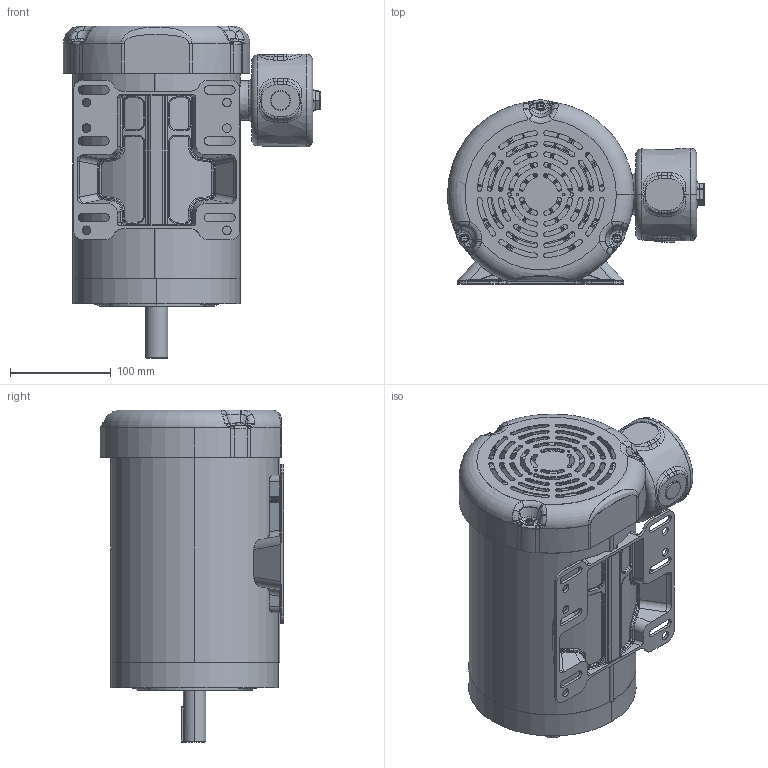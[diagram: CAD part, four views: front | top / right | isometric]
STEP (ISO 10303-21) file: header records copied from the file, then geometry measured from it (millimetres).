
FILE_DESCRIPTION (( 'STEP AP203' ), '1' );
FILE_NAME ('OL121878_RevD.STEP', '2017-11-02T09:48:47', ( '' ), ( '' ), 'SwSTEP 2.0', 'SolidWorks 2015', '' );
FILE_SCHEMA (( 'CONFIG_CONTROL_DESIGN' ));
Length unit declared in the file: inch
Products named in the file (1): OL121878_RevD
Bounding box: 255.71 x 182.88 x 330.12 mm (x, y, z)
Volume: 1035688.6 mm3; surface area: 703896.8 mm2
Topology: 37 solids, 37 shells, 3558 faces, 8552 edges, 5003 vertices
Faces by surface type: bspline 1066, cylinder 1030, plane 670, torus 418, cone 356, sphere 18
Entity records: 147928 total; most frequent: CARTESIAN_POINT 73598, ORIENTED_EDGE 16816, DIRECTION 14130, EDGE_CURVE 8408, AXIS2_PLACEMENT_3D 5953, VERTEX_POINT 5003, EDGE_LOOP 3817, ADVANCED_FACE 3558
